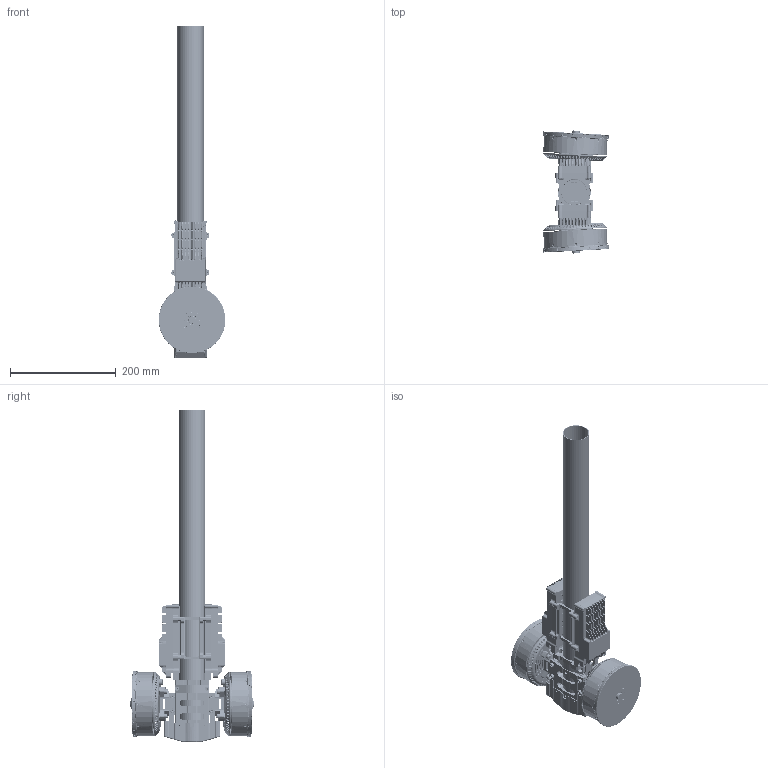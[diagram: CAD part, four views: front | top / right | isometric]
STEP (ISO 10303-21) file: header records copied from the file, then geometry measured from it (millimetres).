
FILE_DESCRIPTION (( 'STEP AP214' ), '1' );
FILE_NAME ('0-X-A12XL II.STEP', '2026-03-17T01:49:08', ( '' ), ( '' ), 'SwSTEP 2.0', 'SolidWorks 2022', '' );
FILE_SCHEMA (( 'AUTOMOTIVE_DESIGN' ));
Length unit declared in the file: millimetre
Products named in the file (1): 0-X-A12XL II
Bounding box: 125.91 x 232.99 x 628.2 mm (x, y, z)
Volume: 1628154.1 mm3; surface area: 692253.1 mm2
Topology: 42 solids, 42 shells, 9129 faces, 23921 edges, 14901 vertices
Faces by surface type: cylinder 3938, plane 3059, bspline 1186, cone 533, torus 305, sphere 108
Entity records: 355912 total; most frequent: CARTESIAN_POINT 131538, ORIENTED_EDGE 47526, DIRECTION 41567, EDGE_CURVE 23763, AXIS2_PLACEMENT_3D 15025, VERTEX_POINT 14901, LINE 11517, VECTOR 11517
